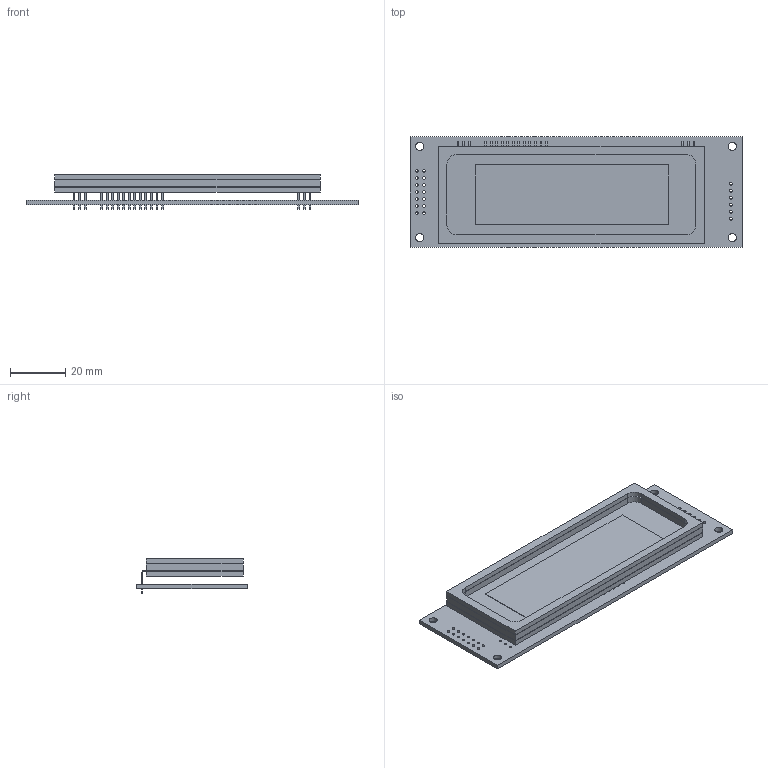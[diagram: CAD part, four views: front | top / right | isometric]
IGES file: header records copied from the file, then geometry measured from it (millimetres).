
Start section:  PTC IGES file: gu140x32f-7064b.igs
Global section: file name: gu140x32f-7064b.igs; native system: Pro/ENGINEER by Parametric Technology Corporation; preprocessor: 2010280; author: samx; organization: Unknown; date: 20140522.115029; units: millimetre
Bounding box: 120 x 40 x 12.5 mm (x, y, z)
Volume: 17164.3 mm3; surface area: 22814.8 mm2
Topology: 3 solids, 3 shells, 371 faces, 1050 edges, 688 vertices
Faces by surface type: bspline 253, revolution 118
